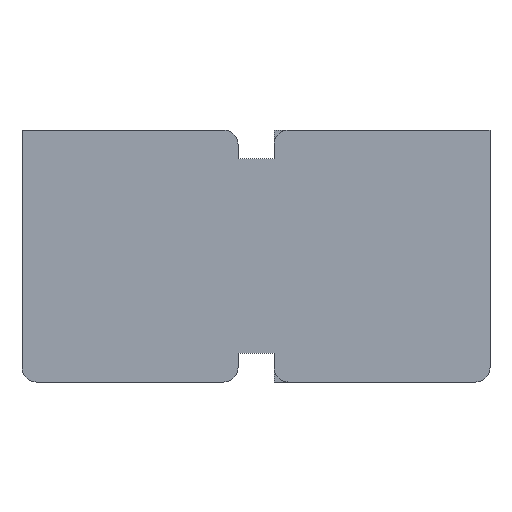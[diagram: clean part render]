
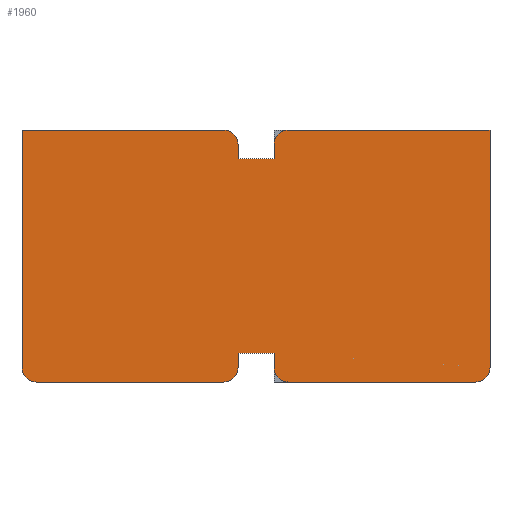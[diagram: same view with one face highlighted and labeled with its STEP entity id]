
A CAD part, front view. The second image highlights one B-rep face of the part: STEP entity #1960.
In plain terms, the highlighted planar face has unit normal (0, -1, 0).
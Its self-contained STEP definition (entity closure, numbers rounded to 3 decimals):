
#15 = ORIENTED_EDGE ( 'NONE', *, *, #1721, .T. ) ;
#20 = DIRECTION ( 'NONE',  ( 0., 0., 1. ) ) ;
#44 = CARTESIAN_POINT ( 'NONE',  ( 2.25, -32., 0. ) ) ;
#47 = ORIENTED_EDGE ( 'NONE', *, *, #830, .F. ) ;
#67 = CARTESIAN_POINT ( 'NONE',  ( -16.25, -32., 0. ) ) ;
#133 = EDGE_CURVE ( 'NONE', #3385, #1827, #1170, .T. ) ;
#186 = EDGE_CURVE ( 'NONE', #3064, #447, #3872, .T. ) ;
#197 = ORIENTED_EDGE ( 'NONE', *, *, #3483, .T. ) ;
#246 = CARTESIAN_POINT ( 'NONE',  ( -15.25, -32., 0. ) ) ;
#249 = DIRECTION ( 'NONE',  ( -1., 0., 0. ) ) ;
#262 = EDGE_CURVE ( 'NONE', #508, #1005, #1602, .T. ) ;
#267 = CARTESIAN_POINT ( 'NONE',  ( 16.25, -32., 17.5 ) ) ;
#279 = PLANE ( 'NONE',  #3337 ) ;
#356 = CARTESIAN_POINT ( 'NONE',  ( -1.25, -32., 15.5 ) ) ;
#388 = VERTEX_POINT ( 'NONE', #2906 ) ;
#447 = VERTEX_POINT ( 'NONE', #1650 ) ;
#452 = CARTESIAN_POINT ( 'NONE',  ( -16.25, -32., 17.5 ) ) ;
#460 = LINE ( 'NONE', #763, #2136 ) ;
#504 = EDGE_CURVE ( 'NONE', #3453, #1249, #1057, .T. ) ;
#508 = VERTEX_POINT ( 'NONE', #796 ) ;
#532 = VERTEX_POINT ( 'NONE', #1144 ) ;
#538 = AXIS2_PLACEMENT_3D ( 'NONE', #3799, #783, #1132 ) ;
#547 = EDGE_LOOP ( 'NONE', ( #3085, #2839, #2926, #197, #2971, #1693, #15, #1567, #818, #2930, #2539, #47, #2663, #733, #971, #1817, #1853, #1838 ) ) ;
#612 = AXIS2_PLACEMENT_3D ( 'NONE', #1409, #2054, #3211 ) ;
#633 = LINE ( 'NONE', #2209, #1972 ) ;
#640 = CARTESIAN_POINT ( 'NONE',  ( 16.25, -32., 1. ) ) ;
#665 = AXIS2_PLACEMENT_3D ( 'NONE', #1519, #3101, #1297 ) ;
#691 = VERTEX_POINT ( 'NONE', #2150 ) ;
#700 = EDGE_CURVE ( 'NONE', #3453, #3782, #633, .T. ) ;
#733 = ORIENTED_EDGE ( 'NONE', *, *, #133, .T. ) ;
#747 = LINE ( 'NONE', #1593, #2075 ) ;
#753 = VECTOR ( 'NONE', #1621, 1000. ) ;
#763 = CARTESIAN_POINT ( 'NONE',  ( 1.25, -32., 0. ) ) ;
#783 = DIRECTION ( 'NONE',  ( 0., -1., 0. ) ) ;
#796 = CARTESIAN_POINT ( 'NONE',  ( 1.25, -32., 15.5 ) ) ;
#797 = DIRECTION ( 'NONE',  ( -1., 0., 0. ) ) ;
#818 = ORIENTED_EDGE ( 'NONE', *, *, #1697, .F. ) ;
#820 = CARTESIAN_POINT ( 'NONE',  ( -1.25, -32., 16.5 ) ) ;
#830 = EDGE_CURVE ( 'NONE', #388, #1249, #1970, .T. ) ;
#947 = DIRECTION ( 'NONE',  ( 0., 0., 1. ) ) ;
#971 = ORIENTED_EDGE ( 'NONE', *, *, #2174, .F. ) ;
#998 = DIRECTION ( 'NONE',  ( 1., 0., 0. ) ) ;
#1005 = VERTEX_POINT ( 'NONE', #2367 ) ;
#1057 = CIRCLE ( 'NONE', #1373, 1. ) ;
#1060 = DIRECTION ( 'NONE',  ( 1., 0., 0. ) ) ;
#1096 = CARTESIAN_POINT ( 'NONE',  ( -15.25, -32., 1. ) ) ;
#1118 = VECTOR ( 'NONE', #3715, 1000. ) ;
#1132 = DIRECTION ( 'NONE',  ( 0., 0., 1. ) ) ;
#1138 = DIRECTION ( 'NONE',  ( 0., -1., 0. ) ) ;
#1139 = DIRECTION ( 'NONE',  ( 0., 0., -1. ) ) ;
#1144 = CARTESIAN_POINT ( 'NONE',  ( -2.25, -32., 0. ) ) ;
#1155 = EDGE_CURVE ( 'NONE', #3385, #388, #3076, .T. ) ;
#1170 = CIRCLE ( 'NONE', #2640, 1. ) ;
#1222 = DIRECTION ( 'NONE',  ( -1., 0., 0. ) ) ;
#1236 = CARTESIAN_POINT ( 'NONE',  ( 1.25, -32., 1. ) ) ;
#1237 = EDGE_CURVE ( 'NONE', #447, #1892, #747, .T. ) ;
#1249 = VERTEX_POINT ( 'NONE', #2222 ) ;
#1297 = DIRECTION ( 'NONE',  ( 0., 0., 1. ) ) ;
#1308 = CARTESIAN_POINT ( 'NONE',  ( -16.25, -32., 17.5 ) ) ;
#1329 = EDGE_CURVE ( 'NONE', #1664, #3227, #3858, .T. ) ;
#1342 = CARTESIAN_POINT ( 'NONE',  ( 2.25, -32., 17.5 ) ) ;
#1373 = AXIS2_PLACEMENT_3D ( 'NONE', #3515, #2548, #2924 ) ;
#1409 = CARTESIAN_POINT ( 'NONE',  ( 2.25, -32., 16.5 ) ) ;
#1451 = CARTESIAN_POINT ( 'NONE',  ( 1.25, -32., 2. ) ) ;
#1483 = CIRCLE ( 'NONE', #2634, 1. ) ;
#1519 = CARTESIAN_POINT ( 'NONE',  ( 2.25, -32., 1. ) ) ;
#1567 = ORIENTED_EDGE ( 'NONE', *, *, #262, .F. ) ;
#1593 = CARTESIAN_POINT ( 'NONE',  ( -1.25, -32., 2. ) ) ;
#1598 = DIRECTION ( 'NONE',  ( 0., 0., -1. ) ) ;
#1602 = LINE ( 'NONE', #3889, #1118 ) ;
#1615 = DIRECTION ( 'NONE',  ( 0., 0., 1. ) ) ;
#1621 = DIRECTION ( 'NONE',  ( 1., 0., 0. ) ) ;
#1650 = CARTESIAN_POINT ( 'NONE',  ( -1.25, -32., 2. ) ) ;
#1664 = VERTEX_POINT ( 'NONE', #2892 ) ;
#1693 = ORIENTED_EDGE ( 'NONE', *, *, #2029, .F. ) ;
#1697 = EDGE_CURVE ( 'NONE', #3782, #508, #2573, .T. ) ;
#1721 = EDGE_CURVE ( 'NONE', #2660, #1005, #2079, .T. ) ;
#1817 = ORIENTED_EDGE ( 'NONE', *, *, #2443, .T. ) ;
#1827 = VERTEX_POINT ( 'NONE', #246 ) ;
#1838 = ORIENTED_EDGE ( 'NONE', *, *, #186, .F. ) ;
#1853 = ORIENTED_EDGE ( 'NONE', *, *, #1237, .F. ) ;
#1855 = CARTESIAN_POINT ( 'NONE',  ( 0., -32., 0. ) ) ;
#1892 = VERTEX_POINT ( 'NONE', #3347 ) ;
#1960 = ADVANCED_FACE ( 'NONE', ( #2475 ), #279, .F. ) ;
#1970 = LINE ( 'NONE', #452, #753 ) ;
#1972 = VECTOR ( 'NONE', #1598, 1000. ) ;
#2029 = EDGE_CURVE ( 'NONE', #2660, #1664, #3106, .T. ) ;
#2054 = DIRECTION ( 'NONE',  ( 0., -1., 0. ) ) ;
#2075 = VECTOR ( 'NONE', #3491, 1000. ) ;
#2079 = CIRCLE ( 'NONE', #612, 1. ) ;
#2096 = LINE ( 'NONE', #2743, #2199 ) ;
#2136 = VECTOR ( 'NONE', #2890, 1000. ) ;
#2150 = CARTESIAN_POINT ( 'NONE',  ( 15.25, -32., 0. ) ) ;
#2174 = EDGE_CURVE ( 'NONE', #532, #1827, #3187, .T. ) ;
#2199 = VECTOR ( 'NONE', #1222, 1000. ) ;
#2202 = VECTOR ( 'NONE', #249, 1000. ) ;
#2209 = CARTESIAN_POINT ( 'NONE',  ( -1.25, -32., 17.5 ) ) ;
#2222 = CARTESIAN_POINT ( 'NONE',  ( -2.25, -32., 17.5 ) ) ;
#2296 = VERTEX_POINT ( 'NONE', #1236 ) ;
#2336 = VECTOR ( 'NONE', #1060, 1000. ) ;
#2367 = CARTESIAN_POINT ( 'NONE',  ( 1.25, -32., 16.5 ) ) ;
#2443 = EDGE_CURVE ( 'NONE', #532, #1892, #1483, .T. ) ;
#2475 = FACE_OUTER_BOUND ( 'NONE', #547, .T. ) ;
#2539 = ORIENTED_EDGE ( 'NONE', *, *, #504, .T. ) ;
#2548 = DIRECTION ( 'NONE',  ( 0., -1., 0. ) ) ;
#2573 = LINE ( 'NONE', #3781, #2336 ) ;
#2634 = AXIS2_PLACEMENT_3D ( 'NONE', #3492, #3472, #1615 ) ;
#2640 = AXIS2_PLACEMENT_3D ( 'NONE', #1096, #1138, #2934 ) ;
#2660 = VERTEX_POINT ( 'NONE', #1342 ) ;
#2663 = ORIENTED_EDGE ( 'NONE', *, *, #1155, .F. ) ;
#2718 = CARTESIAN_POINT ( 'NONE',  ( 16.25, -32., 0. ) ) ;
#2743 = CARTESIAN_POINT ( 'NONE',  ( 16.25, -32., 0. ) ) ;
#2839 = ORIENTED_EDGE ( 'NONE', *, *, #3010, .T. ) ;
#2890 = DIRECTION ( 'NONE',  ( 0., 0., 1. ) ) ;
#2892 = CARTESIAN_POINT ( 'NONE',  ( 16.25, -32., 17.5 ) ) ;
#2906 = CARTESIAN_POINT ( 'NONE',  ( -16.25, -32., 17.5 ) ) ;
#2924 = DIRECTION ( 'NONE',  ( 0., 0., 1. ) ) ;
#2926 = ORIENTED_EDGE ( 'NONE', *, *, #3609, .F. ) ;
#2930 = ORIENTED_EDGE ( 'NONE', *, *, #700, .F. ) ;
#2934 = DIRECTION ( 'NONE',  ( 0., 0., 1. ) ) ;
#2955 = VECTOR ( 'NONE', #998, 1000. ) ;
#2971 = ORIENTED_EDGE ( 'NONE', *, *, #1329, .F. ) ;
#2974 = CARTESIAN_POINT ( 'NONE',  ( 1.25, -32., 2. ) ) ;
#3010 = EDGE_CURVE ( 'NONE', #2296, #3442, #3458, .T. ) ;
#3027 = VECTOR ( 'NONE', #1139, 1000. ) ;
#3064 = VERTEX_POINT ( 'NONE', #1451 ) ;
#3067 = DIRECTION ( 'NONE',  ( 0., 1., 0. ) ) ;
#3076 = LINE ( 'NONE', #67, #3533 ) ;
#3085 = ORIENTED_EDGE ( 'NONE', *, *, #3467, .F. ) ;
#3101 = DIRECTION ( 'NONE',  ( 0., -1., 0. ) ) ;
#3106 = LINE ( 'NONE', #1308, #2955 ) ;
#3187 = LINE ( 'NONE', #2718, #3579 ) ;
#3211 = DIRECTION ( 'NONE',  ( 0., 0., 1. ) ) ;
#3227 = VERTEX_POINT ( 'NONE', #640 ) ;
#3337 = AXIS2_PLACEMENT_3D ( 'NONE', #1855, #3067, #20 ) ;
#3342 = CIRCLE ( 'NONE', #538, 1. ) ;
#3347 = CARTESIAN_POINT ( 'NONE',  ( -1.25, -32., 1. ) ) ;
#3385 = VERTEX_POINT ( 'NONE', #3760 ) ;
#3442 = VERTEX_POINT ( 'NONE', #44 ) ;
#3453 = VERTEX_POINT ( 'NONE', #820 ) ;
#3458 = CIRCLE ( 'NONE', #665, 1. ) ;
#3467 = EDGE_CURVE ( 'NONE', #2296, #3064, #460, .T. ) ;
#3472 = DIRECTION ( 'NONE',  ( 0., -1., 0. ) ) ;
#3483 = EDGE_CURVE ( 'NONE', #691, #3227, #3342, .T. ) ;
#3491 = DIRECTION ( 'NONE',  ( 0., 0., -1. ) ) ;
#3492 = CARTESIAN_POINT ( 'NONE',  ( -2.25, -32., 1. ) ) ;
#3515 = CARTESIAN_POINT ( 'NONE',  ( -2.25, -32., 16.5 ) ) ;
#3533 = VECTOR ( 'NONE', #947, 1000. ) ;
#3579 = VECTOR ( 'NONE', #797, 1000. ) ;
#3609 = EDGE_CURVE ( 'NONE', #691, #3442, #2096, .T. ) ;
#3715 = DIRECTION ( 'NONE',  ( 0., 0., 1. ) ) ;
#3760 = CARTESIAN_POINT ( 'NONE',  ( -16.25, -32., 1. ) ) ;
#3781 = CARTESIAN_POINT ( 'NONE',  ( -1.25, -32., 15.5 ) ) ;
#3782 = VERTEX_POINT ( 'NONE', #356 ) ;
#3799 = CARTESIAN_POINT ( 'NONE',  ( 15.25, -32., 1. ) ) ;
#3858 = LINE ( 'NONE', #267, #3027 ) ;
#3872 = LINE ( 'NONE', #2974, #2202 ) ;
#3889 = CARTESIAN_POINT ( 'NONE',  ( 1.25, -32., 15.5 ) ) ;
